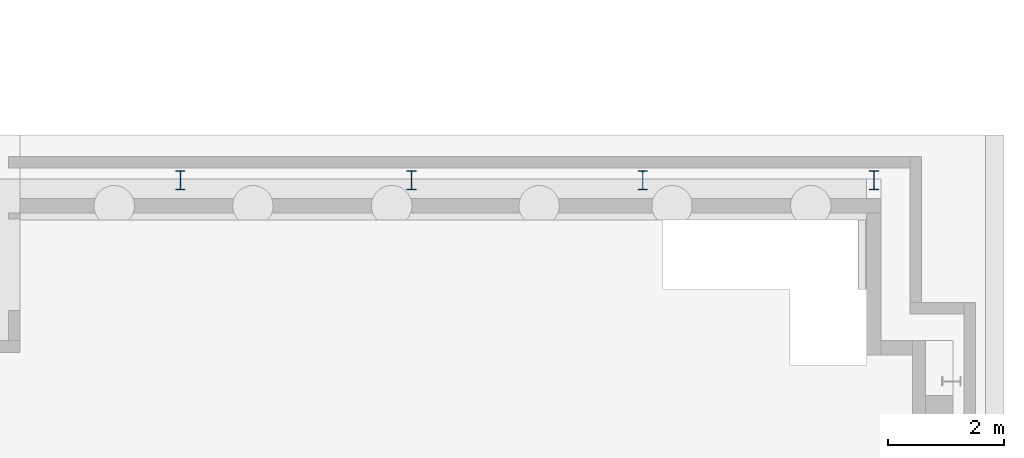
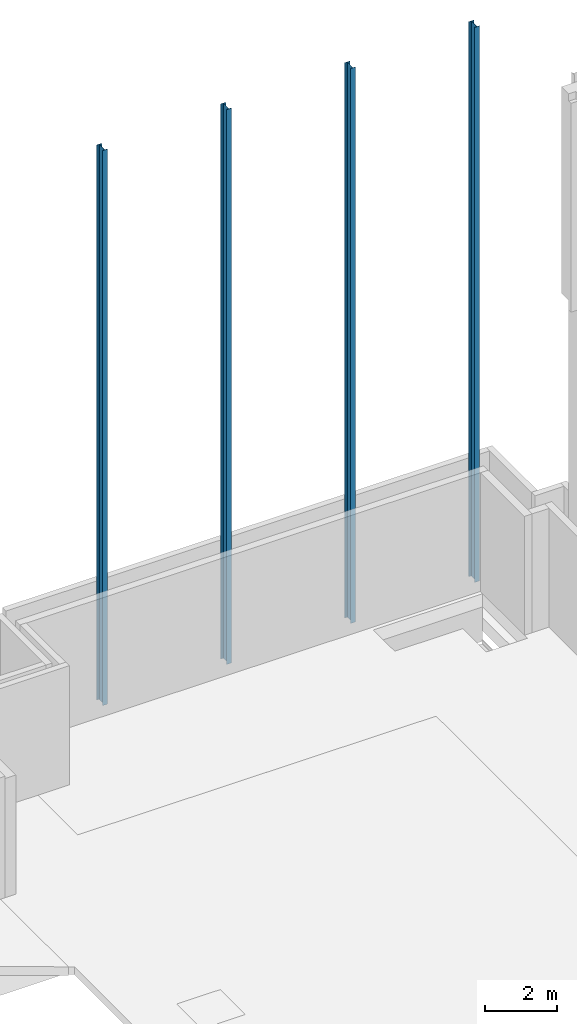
# One storey, part 10 of 34: 4 columns.
"""IFC2X3 building model written with IfcOpenShell, lengths in millimetres."""

import ifcopenshell
import ifcopenshell.guid

model = None  # the IFC model being written
_history = None  # IfcOwnerHistory: only IFC2X3 demands one
_inside = {}  # id of a spatial element -> (the spatial element, [elements in it])
_under = {}  # id of a project, library or spatial element -> (it, [spatial elements below it])
_declared = {}  # id of a project -> (the project, [libraries it declares])
_typed = {}  # id of a type object -> (the type object, [elements of that type])
_made_of = {}  # id of a material, layer set ... -> (it, [elements and type objects made of it])


def new_model(schema):
    """Start an empty IFC model of exactly this schema.

    Asked for "IFC4X3", IfcOpenShell would pick the latest addendum, in which some entities
    have other attributes; the version numbers below select the first issue.
    IFC2X3 requires an IfcOwnerHistory on every rooted entity: one is made here for all.
    """
    global model, _history
    if schema == "IFC4X3":
        model = ifcopenshell.file(schema_version=(4, 3, 0, 0))
    else:
        model = ifcopenshell.file(schema=schema)
    _inside.clear()
    _under.clear()
    _declared.clear()
    _typed.clear()
    _made_of.clear()
    _history = None
    if model.schema == "IFC2X3":
        org = make("IfcOrganization", Name="unknown")
        user = make(
            "IfcPersonAndOrganization",
            ThePerson=make("IfcPerson", FamilyName="unknown"),
            TheOrganization=org,
        )
        app = make(
            "IfcApplication",
            ApplicationDeveloper=org,
            Version="unknown",
            ApplicationFullName="unknown",
            ApplicationIdentifier="unknown",
        )
        _history = make(
            "IfcOwnerHistory",
            OwningUser=user,
            OwningApplication=app,
            ChangeAction="ADDED",
            CreationDate=0,
        )
    return model


def make(cls, **values):
    """One entity of the class cls with the attributes given. An attribute that is None is left unset."""
    return model.create_entity(
        cls, **{name: value for name, value in values.items() if value is not None}
    )


def entity(cls, *values):
    """Any entity or typed value of the class cls, its attributes in the order of the schema. None: left unset."""
    e = model.create_entity(cls)
    for i, value in enumerate(values):
        if value is not None:
            e[i] = value
    return e


def rooted(cls, **values):
    """An entity with a GlobalId (a new one), such as an element, a storey or a relation."""
    return make(cls, GlobalId=ifcopenshell.guid.new(), OwnerHistory=_history, **values)


def si_unit(unit_type, name, prefix=None):
    """IfcSIUnit, for example si_unit("LENGTHUNIT", "METRE", prefix="MILLI")."""
    return make("IfcSIUnit", UnitType=unit_type, Prefix=prefix, Name=name)


def converted_unit(unit_type, name, factor, base, dimensions=None, offset=None):
    """IfcConversionBasedUnit, such as the inch: factor (a typed value) times the base unit."""
    return make(
        "IfcConversionBasedUnit"
        if offset is None
        else "IfcConversionBasedUnitWithOffset",
        ConversionOffset=offset,
        Dimensions=None
        if dimensions is None
        else entity("IfcDimensionalExponents", *dimensions),
        UnitType=unit_type,
        Name=name,
        ConversionFactor=make(
            "IfcMeasureWithUnit", ValueComponent=factor, UnitComponent=base
        ),
    )


def derived_unit(unit_type, elements):
    """IfcDerivedUnit: a product of units, each with its exponent."""
    return make(
        "IfcDerivedUnit",
        Elements=[
            make("IfcDerivedUnitElement", Unit=unit, Exponent=power)
            for unit, power in elements
        ],
        UnitType=unit_type,
    )


def assignment(units):
    """IfcUnitAssignment: the units of a project."""
    return None if units is None else make("IfcUnitAssignment", Units=units)


def point(xyz):
    """IfcCartesianPoint."""
    return None if xyz is None else make("IfcCartesianPoint", Coordinates=xyz)


def direction(xyz):
    """IfcDirection."""
    return None if xyz is None else make("IfcDirection", DirectionRatios=xyz)


def frame(location, z_axis=None, x_axis=None):
    """IfcAxis2Placement3D, a coordinate frame: its origin and axes. An axis left out is left unset."""
    return make(
        "IfcAxis2Placement3D",
        Location=point(location),
        Axis=direction(z_axis),
        RefDirection=direction(x_axis),
    )


def frame_2d(location, x_axis=None):
    """IfcAxis2Placement2D, a coordinate frame in the plane: its origin and x axis."""
    return make(
        "IfcAxis2Placement2D", Location=point(location), RefDirection=direction(x_axis)
    )


def origin():
    """The frame at (0, 0, 0) with its axes left unset."""
    return frame((0.0, 0.0, 0.0))


def place(relative_to, where):
    """IfcLocalPlacement: puts the frame where relative to a parent placement (None: the world)."""
    return make(
        "IfcLocalPlacement", PlacementRelTo=relative_to, RelativePlacement=where
    )


def context(
    kind, dimensions, precision=None, world=None, true_north=None, identifier=None
):
    """IfcGeometricRepresentationContext, for example the 3D "Model" context."""
    return make(
        "IfcGeometricRepresentationContext",
        ContextIdentifier=identifier,
        ContextType=kind,
        CoordinateSpaceDimension=dimensions,
        Precision=precision,
        WorldCoordinateSystem=world,
        TrueNorth=true_north,
    )


def subcontext(parent, identifier, kind, view, scale=None):
    """IfcGeometricRepresentationSubContext, for example "Body" below "Model"."""
    return make(
        "IfcGeometricRepresentationSubContext",
        ContextIdentifier=identifier,
        ContextType=kind,
        ParentContext=parent,
        TargetScale=scale,
        TargetView=view,
    )


def project(units=None, contexts=None):
    """IfcProject with its units and contexts."""
    return rooted(
        "IfcProject",
        Name="project",
        RepresentationContexts=contexts,
        UnitsInContext=assignment(units),
    )


def spatial(cls, under=None, at=None, **own):
    """A site, building, storey or space (cls), placed at a placement, below another one or the project."""
    s = rooted(cls, ObjectPlacement=at, **own)
    if under is not None:
        _under.setdefault(under.id(), (under, []))[1].append(s)
    return s


def profile(cls, at=None, kind="AREA", **sizes):
    """A parametric profile (cls). Its sizes go by their IFC names, for example OverallWidth=200.0."""
    return make(cls, ProfileType=kind, Position=at, **sizes)


def i_section(**sizes):
    """IfcIShapeProfileDef."""
    return profile("IfcIShapeProfileDef", **sizes)


def extrude(swept, where, along, depth):
    """IfcExtrudedAreaSolid: the profile swept, set in the frame where, extruded along a direction by depth."""
    return make(
        "IfcExtrudedAreaSolid",
        SweptArea=swept,
        Position=where,
        ExtrudedDirection=direction(along),
        Depth=depth,
    )


def shape(context_of_items, identifier, shape_type, items):
    """IfcShapeRepresentation: the items that make up one representation, for example the "Body"."""
    return make(
        "IfcShapeRepresentation",
        ContextOfItems=context_of_items,
        RepresentationIdentifier=identifier,
        RepresentationType=shape_type,
        Items=items,
    )


def source(mapping_origin, context_of_items, identifier, shape_type, items):
    """IfcRepresentationMap: a shape defined once, which mapped items show again and again."""
    return make(
        "IfcRepresentationMap",
        MappingOrigin=mapping_origin,
        MappedRepresentation=shape(context_of_items, identifier, shape_type, items),
    )


def transform(
    local_origin,
    x_axis=None,
    y_axis=None,
    z_axis=None,
    scale=None,
    scale2=None,
    scale3=None,
    uniform=True,
):
    """IfcCartesianTransformationOperator3D, or its non-uniform kind. x_axis, y_axis, z_axis: its Axis1, 2, 3."""
    if uniform:
        return make(
            "IfcCartesianTransformationOperator3D",
            Axis1=direction(x_axis),
            Axis2=direction(y_axis),
            LocalOrigin=point(local_origin),
            Scale=scale,
            Axis3=direction(z_axis),
        )
    return make(
        "IfcCartesianTransformationOperator3DnonUniform",
        Axis1=direction(x_axis),
        Axis2=direction(y_axis),
        LocalOrigin=point(local_origin),
        Scale=scale,
        Axis3=direction(z_axis),
        Scale2=scale2,
        Scale3=scale3,
    )


def mapped(mapping_source, mapping_target):
    """IfcMappedItem: shows the shape of a source again, moved by a transform."""
    return make(
        "IfcMappedItem", MappingSource=mapping_source, MappingTarget=mapping_target
    )


def material(Name=None, Category=None):
    """IfcMaterial."""
    return make("IfcMaterial", Name=Name, Category=Category)


def made_of(thing, what):
    """Note that an element or type object is made of a material, layer set ...; save() writes the relation."""
    if what is not None:
        _made_of.setdefault(what.id(), (what, []))[1].append(thing)
    return thing


def type_object(cls, material=None, **own):
    """A type object (cls), such as IfcWallType, which elements share."""
    return made_of(rooted(cls, **own), material)


def type_shapes(of_type, sources):
    """Give a type object the sources (RepresentationMaps) that its elements show as mapped items."""
    of_type.RepresentationMaps = sources


def element(
    cls,
    number,
    at=None,
    inside=None,
    cuts=None,
    type_object=None,
    material=None,
    context=None,
    identifier="Body",
    shape_type=None,
    held_by="IfcProductDefinitionShape",
    body=None,
    shapes=None,
    **own,
):
    """One element of the class cls, such as IfcWall. Its Tag is "e" and its number.

    at: its placement. inside: the storey or other place that contains it. cuts: it is an
    opening in that element (IfcRelVoidsElement). A single representation is given by context,
    identifier, shape_type and body (its items); several are given by shapes. held_by: the class
    of the entity that holds the representations. save() writes the other relations.
    """
    e = rooted(cls, Tag="e%d" % number, ObjectPlacement=at, **own)
    if body is not None:
        shapes = [shape(context, identifier, shape_type, body)]
    if shapes is not None:
        e.Representation = make(held_by, Representations=shapes)
    if inside is not None:
        _inside.setdefault(inside.id(), (inside, []))[1].append(e)
    if cuts is not None:
        rooted(
            "IfcRelVoidsElement", RelatingBuildingElement=cuts, RelatedOpeningElement=e
        )
    if type_object is not None:
        _typed.setdefault(type_object.id(), (type_object, []))[1].append(e)
    return made_of(e, material)


def aggregate(whole, parts):
    """IfcRelAggregates: a whole, such as a stair, and the parts it consists of."""
    return rooted("IfcRelAggregates", RelatingObject=whole, RelatedObjects=parts)


def save(model, path):
    """Write the relations noted so far, then the file.

    IfcRelAggregates (storeys below a building ...), IfcRelContainedInSpatialStructure (elements
    in a storey), IfcRelDefinesByType, IfcRelAssociatesMaterial and IfcRelDeclares: one each for
    every whole, place, type object, material and project.
    """
    for whole, parts in _under.values():
        aggregate(whole, parts)
    for where, things in _inside.values():
        rooted(
            "IfcRelContainedInSpatialStructure",
            RelatedElements=things,
            RelatingStructure=where,
        )
    for kind, things in _typed.values():
        rooted("IfcRelDefinesByType", RelatedObjects=things, RelatingType=kind)
    for what, things in _made_of.values():
        rooted("IfcRelAssociatesMaterial", RelatedObjects=things, RelatingMaterial=what)
    for by, libraries in _declared.values():
        rooted("IfcRelDeclares", RelatingContext=by, RelatedDefinitions=libraries)
    model.write(path)


model = new_model("IFC2X3")

# Units and contexts
model_context = context("Model", 3, precision=0.01, world=origin(), true_north=direction((6.12303176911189e-17, 1.0)))
body_context = subcontext(model_context, "Body", "Model", "MODEL_VIEW")
ifc_project = project(units=[si_unit("LENGTHUNIT", "METRE", prefix="MILLI"), si_unit("AREAUNIT", "SQUARE_METRE", prefix="MILLI"), si_unit("VOLUMEUNIT", "CUBIC_METRE"), converted_unit("PLANEANGLEUNIT", "DEGREE", entity("IfcRatioMeasure", 0.0174532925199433), si_unit("PLANEANGLEUNIT", "RADIAN"), dimensions=[0, 0, 0, 0, 0, 0, 0]), si_unit("MASSUNIT", "GRAM", prefix="KILO"), derived_unit("MASSDENSITYUNIT", [(si_unit("MASSUNIT", "GRAM", prefix="KILO"), 1), (si_unit("LENGTHUNIT", "METRE"), -3)]), derived_unit("MOMENTOFINERTIAUNIT", [(si_unit("LENGTHUNIT", "METRE"), 4)]), si_unit("TIMEUNIT", "SECOND"), si_unit("FREQUENCYUNIT", "HERTZ"), si_unit("THERMODYNAMICTEMPERATUREUNIT", "DEGREE_CELSIUS"), derived_unit("THERMALTRANSMITTANCEUNIT", [(si_unit("MASSUNIT", "GRAM", prefix="KILO"), 1), (si_unit("THERMODYNAMICTEMPERATUREUNIT", "KELVIN"), -1), (si_unit("TIMEUNIT", "SECOND"), -3)]), derived_unit("VOLUMETRICFLOWRATEUNIT", [(si_unit("LENGTHUNIT", "METRE"), 3), (si_unit("TIMEUNIT", "SECOND"), -1)]), si_unit("ELECTRICCURRENTUNIT", "AMPERE"), si_unit("ELECTRICVOLTAGEUNIT", "VOLT"), si_unit("POWERUNIT", "WATT"), si_unit("FORCEUNIT", "NEWTON", prefix="KILO"), si_unit("ILLUMINANCEUNIT", "LUX"), si_unit("LUMINOUSFLUXUNIT", "LUMEN"), si_unit("LUMINOUSINTENSITYUNIT", "CANDELA"), derived_unit("USERDEFINED", [(si_unit("MASSUNIT", "GRAM", prefix="KILO"), -1), (si_unit("LENGTHUNIT", "METRE"), -2), (si_unit("TIMEUNIT", "SECOND"), 3), (si_unit("LUMINOUSFLUXUNIT", "LUMEN"), 1)]), derived_unit("LINEARVELOCITYUNIT", [(si_unit("LENGTHUNIT", "METRE"), 1), (si_unit("TIMEUNIT", "SECOND"), -1)]), si_unit("PRESSUREUNIT", "PASCAL"), derived_unit("USERDEFINED", [(si_unit("LENGTHUNIT", "METRE"), -2), (si_unit("MASSUNIT", "GRAM", prefix="KILO"), 1), (si_unit("TIMEUNIT", "SECOND"), -2)]), derived_unit("LINEARFORCEUNIT", [(si_unit("MASSUNIT", "GRAM", prefix="KILO"), 1), (si_unit("LENGTHUNIT", "METRE"), 1), (si_unit("TIMEUNIT", "SECOND"), -2), (si_unit("LENGTHUNIT", "METRE"), -1)]), derived_unit("PLANARFORCEUNIT", [(si_unit("MASSUNIT", "GRAM", prefix="KILO"), 1), (si_unit("LENGTHUNIT", "METRE"), 1), (si_unit("TIMEUNIT", "SECOND"), -2), (si_unit("LENGTHUNIT", "METRE"), -2)])], contexts=[model_context])

# Site, building, storey
site_placement = place(None, origin())
site = spatial("IfcSite", under=ifc_project, at=site_placement, Name="Theater aan de Parade", CompositionType="ELEMENT")
building_placement = place(site_placement, origin())
building = spatial("IfcBuilding", under=site, at=building_placement, Name="Theater aan de Parade", CompositionType="ELEMENT")
storey_placement = place(building_placement, frame((0.0, 0.0, 3.49116848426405e-09)))
storey = spatial("IfcBuildingStorey", under=building, at=storey_placement, Name="00 begane grond", CompositionType="ELEMENT", Elevation=3.49116848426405e-09)

# Columns
ifc_material = material(Name="00_PBT_MAT_staal_S355")
column_type_1 = type_object("IfcColumnType", Name="28_PBT_SC_staal_IPE-profiel:S355_IPE330", PredefinedType="COLUMN", material=ifc_material)
shared_shape_1 = source(origin(), body_context, "Body", "SweptSolid", [
    extrude(i_section(OverallWidth=159.999999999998, OverallDepth=329.999999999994, WebThickness=7.49999999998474, FlangeThickness=11.4999999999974, FilletRadius=17.9999999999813, at=frame_2d((0.0, -8.66151594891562e-12), x_axis=(0.0, 1.0))), frame((74430.1683175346, 49387.0, 930.0), z_axis=(0.0, 0.0, 1.0), x_axis=(0.0, -1.0, 0.0)), (0.0, 0.0, 1.0), 18919.9999999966),
])
type_shapes(column_type_1, [shared_shape_1])
column_1_placement = place(storey_placement, frame((0.0, 0.0, -3.49116848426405e-09)))
element("IfcColumn", 1, at=column_1_placement, inside=storey, type_object=column_type_1, material=ifc_material, Name="28_PBT_SC_staal_IPE-profiel:S355_IPE330", ObjectType="28_PBT_SC_staal_IPE-profiel:S355_IPE330", context=body_context, shape_type="MappedRepresentation", body=[
    mapped(shared_shape_1, transform((0.0, 0.0, 0.0), scale=1.0)),
])
column_type_2 = type_object("IfcColumnType", Name="28_PBT_SC_staal_IPE-profiel:S355_IPE330", PredefinedType="COLUMN", material=ifc_material)
shared_shape_2 = source(origin(), body_context, "Body", "SweptSolid", [
    extrude(i_section(OverallWidth=159.999999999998, OverallDepth=329.999999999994, WebThickness=7.50000000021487, FlangeThickness=11.4999999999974, FilletRadius=17.9999999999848, at=frame_2d((0.0, 1.73230318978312e-11), x_axis=(0.0, 1.0))), frame((78430.1683175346, 49387.0, 930.0), z_axis=(0.0, 0.0, 1.0), x_axis=(0.0, -1.0, 0.0)), (0.0, 0.0, 1.0), 18919.9999999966),
])
type_shapes(column_type_2, [shared_shape_2])
column_2_placement = place(storey_placement, frame((0.0, 0.0, -3.49116848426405e-09)))
element("IfcColumn", 2, at=column_2_placement, inside=storey, type_object=column_type_2, material=ifc_material, Name="28_PBT_SC_staal_IPE-profiel:S355_IPE330", ObjectType="28_PBT_SC_staal_IPE-profiel:S355_IPE330", context=body_context, shape_type="MappedRepresentation", body=[
    mapped(shared_shape_2, transform((0.0, 0.0, 0.0), scale=1.0)),
])
column_type_3 = type_object("IfcColumnType", Name="28_PBT_SC_staal_IPE-profiel:S355_IPE330", PredefinedType="COLUMN", material=ifc_material)
shared_shape_3 = source(origin(), body_context, "Body", "SweptSolid", [
    extrude(i_section(OverallWidth=159.999999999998, OverallDepth=329.999999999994, WebThickness=7.50000000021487, FlangeThickness=11.4999999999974, FilletRadius=17.9999999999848, at=frame_2d((0.0, 0.0), x_axis=(0.0, 1.0))), frame((82430.1683175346, 49387.0, 930.0), z_axis=(0.0, 0.0, 1.0), x_axis=(0.0, -1.0, 0.0)), (0.0, 0.0, 1.0), 18919.9999999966),
])
type_shapes(column_type_3, [shared_shape_3])
column_3_placement = place(storey_placement, frame((0.0, 0.0, -3.49116848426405e-09)))
element("IfcColumn", 3, at=column_3_placement, inside=storey, type_object=column_type_3, material=ifc_material, Name="28_PBT_SC_staal_IPE-profiel:S355_IPE330", ObjectType="28_PBT_SC_staal_IPE-profiel:S355_IPE330", context=body_context, shape_type="MappedRepresentation", body=[
    mapped(shared_shape_3, transform((0.0, 0.0, 0.0), scale=1.0)),
])
column_type_4 = type_object("IfcColumnType", Name="28_PBT_SC_staal_IPE-profiel:S355_IPE330", PredefinedType="COLUMN", material=ifc_material)
shared_shape_4 = source(origin(), body_context, "Body", "SweptSolid", [
    extrude(i_section(OverallWidth=159.999999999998, OverallDepth=329.999999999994, WebThickness=7.50000000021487, FlangeThickness=11.4999999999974, FilletRadius=17.9999999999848, at=frame_2d((0.0, 1.73230318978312e-11), x_axis=(0.0, 1.0))), frame((86430.1683175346, 49387.0, 930.0), z_axis=(0.0, 0.0, 1.0), x_axis=(0.0, -1.0, 0.0)), (0.0, 0.0, 1.0), 18919.9999999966),
])
type_shapes(column_type_4, [shared_shape_4])
column_4_placement = place(storey_placement, frame((0.0, 0.0, -3.49116848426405e-09)))
element("IfcColumn", 4, at=column_4_placement, inside=storey, type_object=column_type_4, material=ifc_material, Name="28_PBT_SC_staal_IPE-profiel:S355_IPE330", ObjectType="28_PBT_SC_staal_IPE-profiel:S355_IPE330", context=body_context, shape_type="MappedRepresentation", body=[
    mapped(shared_shape_4, transform((0.0, 0.0, 0.0), scale=1.0)),
])

save(model, "model.ifc")
